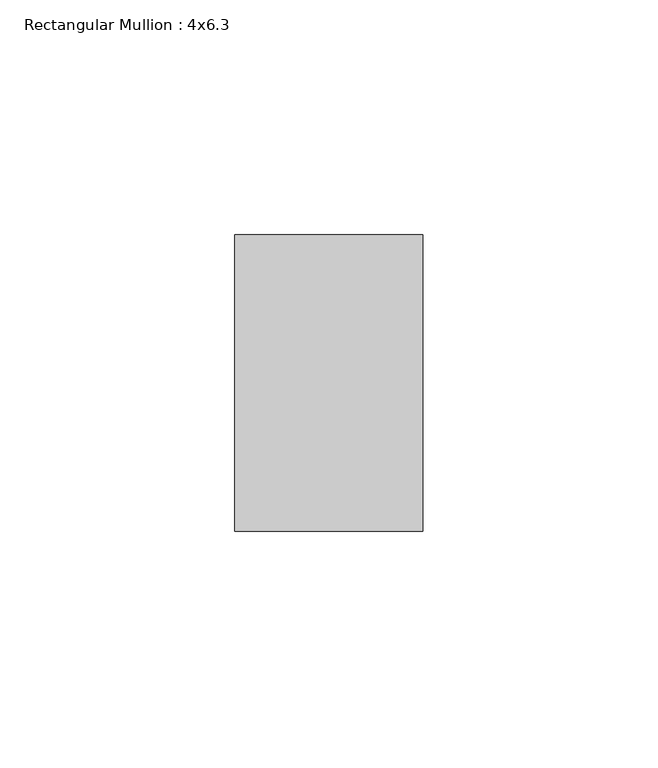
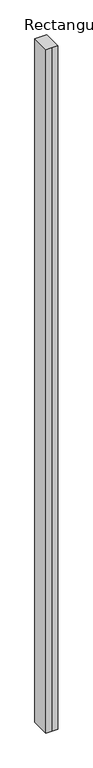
"""IFC4 building model written with IfcOpenShell, lengths in millimetres: member geometry, Rectangular Mullion : 4x6.3."""

from ifc_helpers import new_model, si_unit, frame, origin, place, context, project, spatial, polyline, outline, extrude, source, transform, mapped, element, save


def rectangular_mullion_4x6_3_6c6f8e9d(model_context):
    return source(origin(), model_context, "Body", "SweptSolid", [
        extrude(outline(polyline([(-20.0, 20.0), (-20.0, 83.0), (20.0, 83.0), (20.0, 20.0), (0.0, 20.0), (-20.0, 20.0)])), frame((0.0, 0.0, -2397.5034824), z_axis=(0.0, 0.0, 1.0), x_axis=(1.0, 0.0, 0.0)), (0.0, 0.0, 1.0), 2397.5034824),
    ])


if __name__ == "__main__":
    model = new_model("IFC4")
    model_context = context("Model", 3, world=origin())
    ifc_project = project(units=[si_unit("LENGTHUNIT", "METRE", prefix="MILLI")], contexts=[model_context])
    site = spatial("IfcSite", under=ifc_project)
    building = spatial("IfcBuilding", under=site)
    placement = place(None, origin())
    rectangular_mullion_4x6_3_shape = rectangular_mullion_4x6_3_6c6f8e9d(model_context)
    element("IfcMember", 1, ObjectType="Rectangular Mullion : 4x6.3", at=placement, inside=building, context=model_context, shape_type="MappedRepresentation", body=[
        mapped(rectangular_mullion_4x6_3_shape, transform((0.0, 0.0, 0.0), x_axis=(1.0, 0.0, 0.0), y_axis=(0.0, 1.0, 0.0), z_axis=(0.0, 0.0, 1.0))),
    ])
    save(model, "model.ifc")
